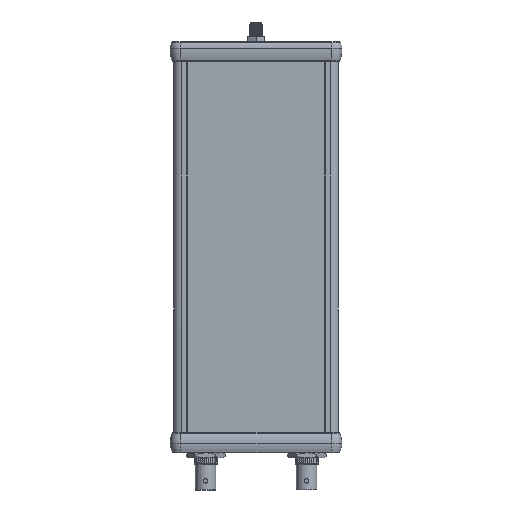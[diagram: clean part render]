
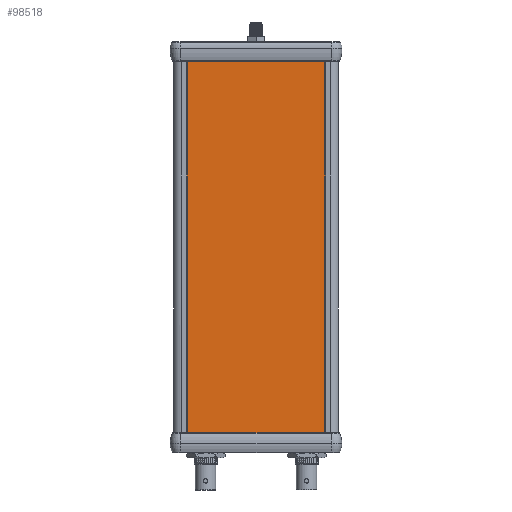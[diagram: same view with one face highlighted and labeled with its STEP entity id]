
A CAD part, front view. The second image highlights one B-rep face of the part: STEP entity #98518.
In plain terms, the highlighted planar face has unit normal (0, -1, 0).
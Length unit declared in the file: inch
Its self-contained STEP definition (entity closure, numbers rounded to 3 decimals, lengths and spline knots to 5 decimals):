
#565 = EDGE_CURVE ( 'NONE', #20216, #18269, #14934, .T. ) ;
#3431 = CARTESIAN_POINT ( 'NONE',  ( 0.256, 0., -0.33637 ) ) ;
#6915 = LINE ( 'NONE', #75104, #129214 ) ;
#14934 = LINE ( 'NONE', #54913, #112445 ) ;
#18269 = VERTEX_POINT ( 'NONE', #48867 ) ;
#19142 = DIRECTION ( 'NONE',  ( 1., 0., 0. ) ) ;
#20216 = VERTEX_POINT ( 'NONE', #69808 ) ;
#20422 = VECTOR ( 'NONE', #19142, 39.37008 ) ;
#21461 = LINE ( 'NONE', #119747, #102547 ) ;
#27195 = EDGE_LOOP ( 'NONE', ( #109179, #59585, #117256, #54297 ) ) ;
#29428 = FACE_OUTER_BOUND ( 'NONE', #27195, .T. ) ;
#32586 = DIRECTION ( 'NONE',  ( 0., 0., 1. ) ) ;
#39230 = DIRECTION ( 'NONE',  ( 0., 1., 0. ) ) ;
#45641 = DIRECTION ( 'NONE',  ( -1., 0., 0. ) ) ;
#47699 = EDGE_CURVE ( 'NONE', #114574, #74396, #21461, .T. ) ;
#48867 = CARTESIAN_POINT ( 'NONE',  ( 2.791, 0., -0.33637 ) ) ;
#54297 = ORIENTED_EDGE ( 'NONE', *, *, #112284, .T. ) ;
#54913 = CARTESIAN_POINT ( 'NONE',  ( 2.791, 0., -7.4046 ) ) ;
#58257 = EDGE_CURVE ( 'NONE', #114574, #20216, #68891, .T. ) ;
#59585 = ORIENTED_EDGE ( 'NONE', *, *, #58257, .T. ) ;
#59927 = DIRECTION ( 'NONE',  ( 0., 0., 1. ) ) ;
#63872 = CARTESIAN_POINT ( 'NONE',  ( 0.256, 0., -7.21408 ) ) ;
#68891 = LINE ( 'NONE', #108830, #20422 ) ;
#69808 = CARTESIAN_POINT ( 'NONE',  ( 2.791, 0., -7.21408 ) ) ;
#74396 = VERTEX_POINT ( 'NONE', #3431 ) ;
#75104 = CARTESIAN_POINT ( 'NONE',  ( 2.925, 0., -0.33637 ) ) ;
#81490 = AXIS2_PLACEMENT_3D ( 'NONE', #117216, #39230, #99428 ) ;
#98518 = ADVANCED_FACE ( 'NONE', ( #29428 ), #119808, .F. ) ;
#99428 = DIRECTION ( 'NONE',  ( 1., 0., 0. ) ) ;
#102547 = VECTOR ( 'NONE', #32586, 39.37008 ) ;
#108830 = CARTESIAN_POINT ( 'NONE',  ( 0.12885, 0., -7.21408 ) ) ;
#109179 = ORIENTED_EDGE ( 'NONE', *, *, #47699, .F. ) ;
#112284 = EDGE_CURVE ( 'NONE', #18269, #74396, #6915, .T. ) ;
#112445 = VECTOR ( 'NONE', #59927, 39.37008 ) ;
#114574 = VERTEX_POINT ( 'NONE', #63872 ) ;
#117216 = CARTESIAN_POINT ( 'NONE',  ( 2.791, 0., -7.4046 ) ) ;
#117256 = ORIENTED_EDGE ( 'NONE', *, *, #565, .T. ) ;
#119747 = CARTESIAN_POINT ( 'NONE',  ( 0.256, 0., -7.4046 ) ) ;
#119808 = PLANE ( 'NONE',  #81490 ) ;
#129214 = VECTOR ( 'NONE', #45641, 39.37008 ) ;
